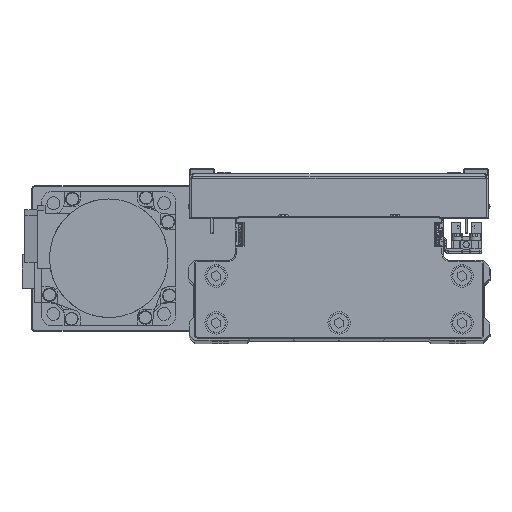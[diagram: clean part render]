
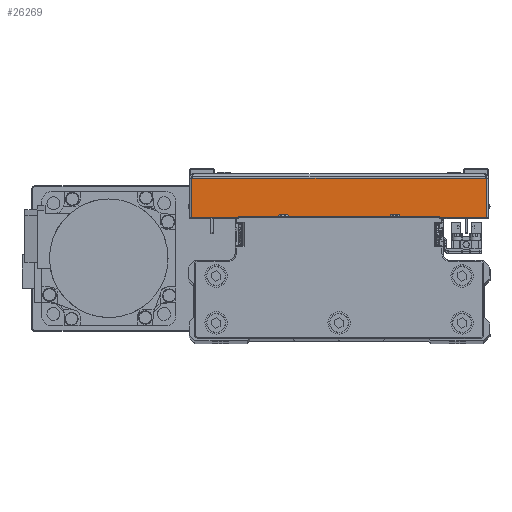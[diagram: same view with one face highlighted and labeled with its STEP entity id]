
A CAD part, top view. The second image highlights one B-rep face of the part: STEP entity #26269.
In plain terms, the highlighted planar face has unit normal (0, 0, 1) as drawn and (1, 0, 0) by its records, which use the part's own axes.
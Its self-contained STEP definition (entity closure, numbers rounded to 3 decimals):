
#1745 = VERTEX_POINT ( 'NONE', #18044 ) ;
#1936 = CARTESIAN_POINT ( 'NONE',  ( 100., 0., 65.929 ) ) ;
#2260 = EDGE_CURVE ( 'NONE', #11162, #20544, #32381, .T. ) ;
#5345 = VECTOR ( 'NONE', #25773, 1000. ) ;
#6786 = CARTESIAN_POINT ( 'NONE',  ( 100., 1., -65.929 ) ) ;
#7349 = DIRECTION ( 'NONE',  ( 0., -1., 0. ) ) ;
#8114 = LINE ( 'NONE', #21676, #26582 ) ;
#8472 = ORIENTED_EDGE ( 'NONE', *, *, #37567, .F. ) ;
#9854 = CARTESIAN_POINT ( 'NONE',  ( 100., 18.5, 0. ) ) ;
#10686 = PLANE ( 'NONE',  #33847 ) ;
#11162 = VERTEX_POINT ( 'NONE', #30789 ) ;
#12202 = CARTESIAN_POINT ( 'NONE',  ( 100., 0., -65.929 ) ) ;
#13131 = CARTESIAN_POINT ( 'NONE',  ( 100., 18.5, 65.929 ) ) ;
#13251 = ORIENTED_EDGE ( 'NONE', *, *, #25687, .T. ) ;
#15479 = DIRECTION ( 'NONE',  ( 0., 1., 0. ) ) ;
#18044 = CARTESIAN_POINT ( 'NONE',  ( 100., 18.5, -65.929 ) ) ;
#19723 = ORIENTED_EDGE ( 'NONE', *, *, #24680, .T. ) ;
#20544 = VERTEX_POINT ( 'NONE', #13131 ) ;
#21676 = CARTESIAN_POINT ( 'NONE',  ( 100., 1., 67. ) ) ;
#23427 = DIRECTION ( 'NONE',  ( 0., 0., 1. ) ) ;
#24260 = CARTESIAN_POINT ( 'NONE',  ( 100., 0., 0. ) ) ;
#24574 = VECTOR ( 'NONE', #23427, 1000. ) ;
#24680 = EDGE_CURVE ( 'NONE', #41880, #1745, #42677, .T. ) ;
#25687 = EDGE_CURVE ( 'NONE', #1745, #20544, #40302, .T. ) ;
#25773 = DIRECTION ( 'NONE',  ( 0., 1., 0. ) ) ;
#26269 = ADVANCED_FACE ( 'NONE', ( #41138 ), #10686, .F. ) ;
#26582 = VECTOR ( 'NONE', #35253, 1000. ) ;
#30789 = CARTESIAN_POINT ( 'NONE',  ( 100., 1., 65.929 ) ) ;
#32381 = LINE ( 'NONE', #1936, #32572 ) ;
#32572 = VECTOR ( 'NONE', #15479, 1000. ) ;
#32752 = ORIENTED_EDGE ( 'NONE', *, *, #2260, .F. ) ;
#33847 = AXIS2_PLACEMENT_3D ( 'NONE', #24260, #37798, #7349 ) ;
#35253 = DIRECTION ( 'NONE',  ( 0., 0., 1. ) ) ;
#37567 = EDGE_CURVE ( 'NONE', #41880, #11162, #8114, .T. ) ;
#37798 = DIRECTION ( 'NONE',  ( -1., 0., 0. ) ) ;
#39925 = EDGE_LOOP ( 'NONE', ( #8472, #19723, #13251, #32752 ) ) ;
#40302 = LINE ( 'NONE', #9854, #24574 ) ;
#41138 = FACE_OUTER_BOUND ( 'NONE', #39925, .T. ) ;
#41880 = VERTEX_POINT ( 'NONE', #6786 ) ;
#42677 = LINE ( 'NONE', #12202, #5345 ) ;
